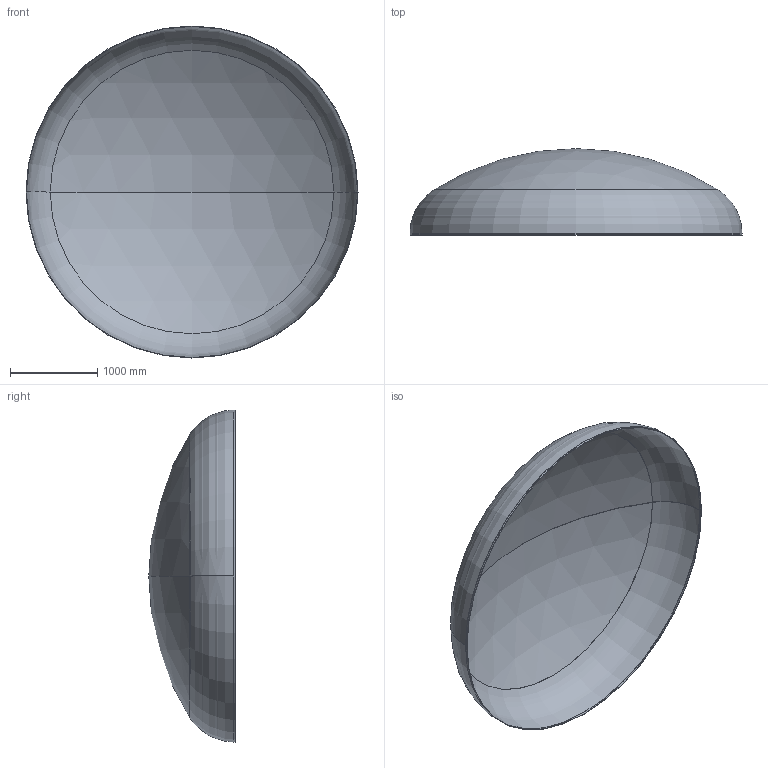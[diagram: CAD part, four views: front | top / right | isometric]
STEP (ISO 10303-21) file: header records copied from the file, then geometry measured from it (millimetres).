
FILE_DESCRIPTION (( 'STEP AP203' ), '1' );
FILE_NAME ('DIN 28013 Korbbogenform_-_Boden DIN 28013 - 3800 x 20 - I - s=5.step', '2016-07-01T20:58:03', ( '' ), ( '' ), 'SwSTEP 2.0', 'SolidWorks 2013', '' );
FILE_SCHEMA (( 'CONFIG_CONTROL_DESIGN' ));
Length unit declared in the file: millimetre
Products named in the file (1): DIN 28013 Korbbogenform_-_Boden DIN 28013 - 3800 x 20 - I - s=5
Bounding box: 3800 x 988.72 x 3800 mm (x, y, z)
Volume: 79595628.2 mm3; surface area: 31897902.1 mm2
Topology: 1 solids, 1 shells, 13 faces, 24 edges, 14 vertices
Faces by surface type: torus 4, cylinder 4, sphere 4, plane 1
Entity records: 407 total; most frequent: DIRECTION 72, CARTESIAN_POINT 52, ORIENTED_EDGE 48, AXIS2_PLACEMENT_3D 34, EDGE_CURVE 24, CIRCLE 20, VERTEX_POINT 14, EDGE_LOOP 14
